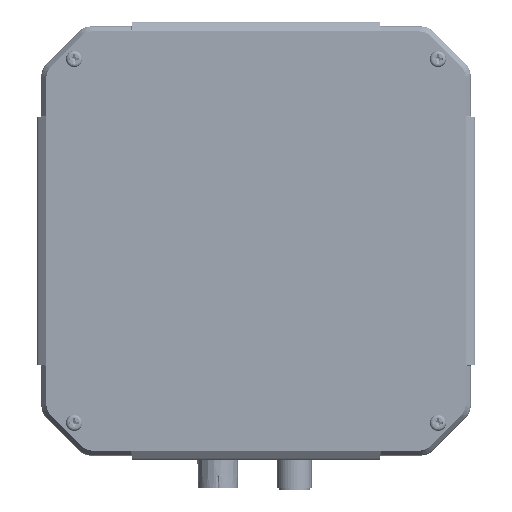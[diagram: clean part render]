
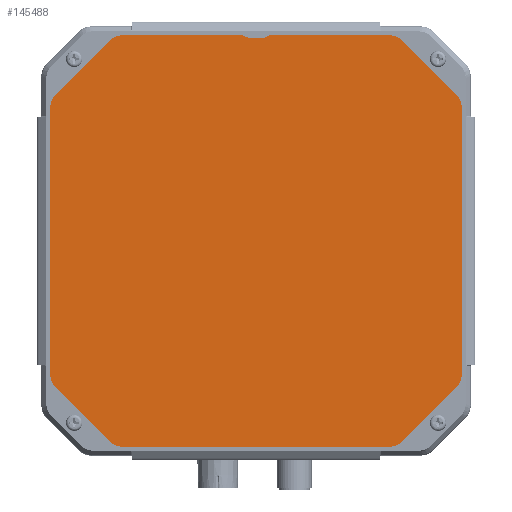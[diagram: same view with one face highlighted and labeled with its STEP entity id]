
A CAD part, front view. The second image highlights one B-rep face of the part: STEP entity #145488.
In plain terms, the highlighted planar face has unit normal (0, -1, 0).
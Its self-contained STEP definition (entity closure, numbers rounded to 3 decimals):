
#50403=DIRECTION('',(1.,0.,0.));
#50404=VECTOR('',#50403,41.569);
#50405=CARTESIAN_POINT('',(4.571,-97.8,82.45));
#50406=LINE('',#50405,#50404);
#50411=DIRECTION('',(-0.903,0.,-0.429));
#50412=VECTOR('',#50411,1.763);
#50413=CARTESIAN_POINT('',(4.142,-97.8,82.353));
#50414=LINE('',#50413,#50412);
#50415=CARTESIAN_POINT('',(4.571,-97.8,81.45));
#50416=DIRECTION('',(0.,-1.,0.));
#50417=DIRECTION('',(0.,0.,1.));
#50418=AXIS2_PLACEMENT_3D('',#50415,#50416,#50417);
#50420=CARTESIAN_POINT('',(46.141,-97.8,78.049));
#50421=DIRECTION('',(0.,-1.,0.));
#50422=DIRECTION('',(0.707,0.,0.707));
#50423=AXIS2_PLACEMENT_3D('',#50420,#50421,#50422);
#50425=DIRECTION('',(-0.707,0.,0.707));
#50426=VECTOR('',#50425,27.591);
#50427=CARTESIAN_POINT('',(68.762,-97.8,61.65));
#50428=LINE('',#50427,#50426);
#50429=CARTESIAN_POINT('',(65.651,-97.8,58.538));
#50430=DIRECTION('',(0.,-1.,0.));
#50431=DIRECTION('',(1.,0.,0.));
#50432=AXIS2_PLACEMENT_3D('',#50429,#50430,#50431);
#50434=CARTESIAN_POINT('',(65.649,-97.8,-33.741));
#50435=DIRECTION('',(0.,-1.,0.));
#50436=DIRECTION('',(0.707,0.,-0.707));
#50437=AXIS2_PLACEMENT_3D('',#50434,#50435,#50436);
#50439=DIRECTION('',(0.707,0.,0.707));
#50440=VECTOR('',#50439,27.591);
#50441=CARTESIAN_POINT('',(49.25,-97.8,-56.362));
#50442=LINE('',#50441,#50440);
#50443=CARTESIAN_POINT('',(46.138,-97.8,-53.251));
#50444=DIRECTION('',(0.,-1.,0.));
#50445=DIRECTION('',(0.,0.,-1.));
#50446=AXIS2_PLACEMENT_3D('',#50443,#50444,#50445);
#50448=CARTESIAN_POINT('',(-46.141,-97.8,-53.249));
#50449=DIRECTION('',(0.,-1.,0.));
#50450=DIRECTION('',(-0.707,0.,-0.707));
#50451=AXIS2_PLACEMENT_3D('',#50448,#50449,#50450);
#50453=DIRECTION('',(0.707,0.,-0.707));
#50454=VECTOR('',#50453,27.591);
#50455=CARTESIAN_POINT('',(-68.762,-97.8,-36.85));
#50456=LINE('',#50455,#50454);
#50457=CARTESIAN_POINT('',(-65.651,-97.8,-33.739));
#50458=DIRECTION('',(0.,-1.,0.));
#50459=DIRECTION('',(-1.,0.,0.));
#50460=AXIS2_PLACEMENT_3D('',#50457,#50458,#50459);
#50462=CARTESIAN_POINT('',(-65.649,-97.8,58.541));
#50463=DIRECTION('',(0.,-1.,0.));
#50464=DIRECTION('',(-0.707,0.,0.707));
#50465=AXIS2_PLACEMENT_3D('',#50462,#50463,#50464);
#50467=DIRECTION('',(-0.707,0.,-0.707));
#50468=VECTOR('',#50467,27.591);
#50469=CARTESIAN_POINT('',(-49.25,-97.8,81.162));
#50470=LINE('',#50469,#50468);
#50471=CARTESIAN_POINT('',(-46.139,-97.8,78.051));
#50472=DIRECTION('',(0.,-1.,0.));
#50473=DIRECTION('',(0.,0.,1.));
#50474=AXIS2_PLACEMENT_3D('',#50471,#50472,#50473);
#50476=CARTESIAN_POINT('',(-4.569,-97.8,81.45));
#50477=DIRECTION('',(0.,-1.,0.));
#50478=DIRECTION('',(0.429,0.,0.903));
#50479=AXIS2_PLACEMENT_3D('',#50476,#50477,#50478);
#50481=DIRECTION('',(-0.903,0.,0.429));
#50482=VECTOR('',#50481,1.763);
#50483=CARTESIAN_POINT('',(-2.548,-97.8,81.596));
#50484=LINE('',#50483,#50482);
#50485=CARTESIAN_POINT('',(-2.119,-97.8,82.5));
#50486=DIRECTION('',(0.,1.,0.));
#50487=DIRECTION('',(0.,0.,-1.));
#50488=AXIS2_PLACEMENT_3D('',#50485,#50486,#50487);
#50490=CARTESIAN_POINT('',(2.121,-97.8,82.5));
#50491=DIRECTION('',(0.,1.,0.));
#50492=DIRECTION('',(0.429,0.,-0.903));
#50493=AXIS2_PLACEMENT_3D('',#50490,#50491,#50492);
#50511=DIRECTION('',(1.,0.,0.));
#50512=VECTOR('',#50511,4.24);
#50513=CARTESIAN_POINT('',(-2.119,-97.8,81.5));
#50514=LINE('',#50513,#50512);
#50535=DIRECTION('',(1.,0.,0.));
#50536=VECTOR('',#50535,41.569);
#50537=CARTESIAN_POINT('',(-46.139,-97.8,82.451));
#50538=LINE('',#50537,#50536);
#50559=DIRECTION('',(0.,0.,1.));
#50560=VECTOR('',#50559,92.28);
#50561=CARTESIAN_POINT('',(-70.051,-97.8,-33.739));
#50562=LINE('',#50561,#50560);
#50583=DIRECTION('',(-1.,0.,0.));
#50584=VECTOR('',#50583,92.28);
#50585=CARTESIAN_POINT('',(46.138,-97.8,-57.651));
#50586=LINE('',#50585,#50584);
#50603=DIRECTION('',(0.,0.,-1.));
#50604=VECTOR('',#50603,92.28);
#50605=CARTESIAN_POINT('',(70.051,-97.8,58.538));
#50606=LINE('',#50605,#50604);
#64912=CARTESIAN_POINT('',(4.571,-97.8,82.45));
#64913=CARTESIAN_POINT('',(4.142,-97.8,82.353));
#64914=VERTEX_POINT('',#64912);
#64915=VERTEX_POINT('',#64913);
#64916=CARTESIAN_POINT('',(46.141,-97.8,82.449));
#64917=VERTEX_POINT('',#64916);
#64918=CARTESIAN_POINT('',(49.252,-97.8,81.16));
#64919=VERTEX_POINT('',#64918);
#64920=CARTESIAN_POINT('',(68.762,-97.8,61.65));
#64921=VERTEX_POINT('',#64920);
#64922=CARTESIAN_POINT('',(70.051,-97.8,58.538));
#64923=VERTEX_POINT('',#64922);
#64924=CARTESIAN_POINT('',(70.049,-97.8,-33.741));
#64925=VERTEX_POINT('',#64924);
#64926=CARTESIAN_POINT('',(68.76,-97.8,-36.853));
#64927=VERTEX_POINT('',#64926);
#64928=CARTESIAN_POINT('',(49.25,-97.8,-56.362));
#64929=VERTEX_POINT('',#64928);
#64930=CARTESIAN_POINT('',(46.138,-97.8,-57.651));
#64931=VERTEX_POINT('',#64930);
#64932=CARTESIAN_POINT('',(-46.141,-97.8,-57.649));
#64933=VERTEX_POINT('',#64932);
#64934=CARTESIAN_POINT('',(-49.253,-97.8,-56.361));
#64935=VERTEX_POINT('',#64934);
#64936=CARTESIAN_POINT('',(-68.762,-97.8,-36.85));
#64937=VERTEX_POINT('',#64936);
#64938=CARTESIAN_POINT('',(-70.051,-97.8,-33.739));
#64939=VERTEX_POINT('',#64938);
#64940=CARTESIAN_POINT('',(-70.049,-97.8,58.541));
#64941=VERTEX_POINT('',#64940);
#64942=CARTESIAN_POINT('',(-68.761,-97.8,61.652));
#64943=VERTEX_POINT('',#64942);
#64944=CARTESIAN_POINT('',(-49.25,-97.8,81.162));
#64945=VERTEX_POINT('',#64944);
#64946=CARTESIAN_POINT('',(-46.139,-97.8,82.451));
#64947=VERTEX_POINT('',#64946);
#64948=CARTESIAN_POINT('',(-4.569,-97.8,82.45));
#64949=VERTEX_POINT('',#64948);
#64950=CARTESIAN_POINT('',(-4.14,-97.8,82.353));
#64951=VERTEX_POINT('',#64950);
#64952=CARTESIAN_POINT('',(-2.548,-97.8,81.596));
#64953=VERTEX_POINT('',#64952);
#64954=CARTESIAN_POINT('',(-2.119,-97.8,81.5));
#64955=VERTEX_POINT('',#64954);
#64956=CARTESIAN_POINT('',(2.121,-97.8,81.5));
#64957=VERTEX_POINT('',#64956);
#64958=CARTESIAN_POINT('',(2.55,-97.8,81.596));
#64959=VERTEX_POINT('',#64958);
#145434=CARTESIAN_POINT('',(0.,-97.8,12.4));
#145435=DIRECTION('',(0.,-1.,0.));
#145436=DIRECTION('',(1.,0.,0.));
#145437=AXIS2_PLACEMENT_3D('',#145434,#145435,#145436);
#145438=PLANE('',#145437);
#145440=ORIENTED_EDGE('',*,*,#145439,.F.);
#145442=ORIENTED_EDGE('',*,*,#145441,.F.);
#145443=ORIENTED_EDGE('',*,*,#145424,.T.);
#145445=ORIENTED_EDGE('',*,*,#145444,.F.);
#145447=ORIENTED_EDGE('',*,*,#145446,.F.);
#145449=ORIENTED_EDGE('',*,*,#145448,.F.);
#145451=ORIENTED_EDGE('',*,*,#145450,.T.);
#145453=ORIENTED_EDGE('',*,*,#145452,.F.);
#145455=ORIENTED_EDGE('',*,*,#145454,.F.);
#145457=ORIENTED_EDGE('',*,*,#145456,.F.);
#145459=ORIENTED_EDGE('',*,*,#145458,.T.);
#145461=ORIENTED_EDGE('',*,*,#145460,.F.);
#145463=ORIENTED_EDGE('',*,*,#145462,.F.);
#145465=ORIENTED_EDGE('',*,*,#145464,.F.);
#145467=ORIENTED_EDGE('',*,*,#145466,.T.);
#145469=ORIENTED_EDGE('',*,*,#145468,.F.);
#145471=ORIENTED_EDGE('',*,*,#145470,.F.);
#145473=ORIENTED_EDGE('',*,*,#145472,.F.);
#145475=ORIENTED_EDGE('',*,*,#145474,.T.);
#145477=ORIENTED_EDGE('',*,*,#145476,.F.);
#145479=ORIENTED_EDGE('',*,*,#145478,.F.);
#145481=ORIENTED_EDGE('',*,*,#145480,.F.);
#145483=ORIENTED_EDGE('',*,*,#145482,.T.);
#145485=ORIENTED_EDGE('',*,*,#145484,.F.);
#145486=EDGE_LOOP('',(#145440,#145442,#145443,#145445,#145447,#145449,#145451,
#145453,#145455,#145457,#145459,#145461,#145463,#145465,#145467,#145469,#145471,
#145473,#145475,#145477,#145479,#145481,#145483,#145485));
#145487=FACE_OUTER_BOUND('',#145486,.F.);
#50419=CIRCLE('',#50418,1.);
#50424=CIRCLE('',#50423,4.4);
#50433=CIRCLE('',#50432,4.4);
#50438=CIRCLE('',#50437,4.4);
#50447=CIRCLE('',#50446,4.4);
#50452=CIRCLE('',#50451,4.4);
#50461=CIRCLE('',#50460,4.4);
#50466=CIRCLE('',#50465,4.4);
#50475=CIRCLE('',#50474,4.4);
#50480=CIRCLE('',#50479,1.);
#50489=CIRCLE('',#50488,1.);
#50494=CIRCLE('',#50493,1.);
#145424=EDGE_CURVE('',#64914,#64917,#50406,.T.);
#145439=EDGE_CURVE('',#64915,#64959,#50414,.T.);
#145441=EDGE_CURVE('',#64914,#64915,#50419,.T.);
#145444=EDGE_CURVE('',#64919,#64917,#50424,.T.);
#145446=EDGE_CURVE('',#64921,#64919,#50428,.T.);
#145448=EDGE_CURVE('',#64923,#64921,#50433,.T.);
#145450=EDGE_CURVE('',#64923,#64925,#50606,.T.);
#145452=EDGE_CURVE('',#64927,#64925,#50438,.T.);
#145454=EDGE_CURVE('',#64929,#64927,#50442,.T.);
#145456=EDGE_CURVE('',#64931,#64929,#50447,.T.);
#145458=EDGE_CURVE('',#64931,#64933,#50586,.T.);
#145460=EDGE_CURVE('',#64935,#64933,#50452,.T.);
#145462=EDGE_CURVE('',#64937,#64935,#50456,.T.);
#145464=EDGE_CURVE('',#64939,#64937,#50461,.T.);
#145466=EDGE_CURVE('',#64939,#64941,#50562,.T.);
#145468=EDGE_CURVE('',#64943,#64941,#50466,.T.);
#145470=EDGE_CURVE('',#64945,#64943,#50470,.T.);
#145472=EDGE_CURVE('',#64947,#64945,#50475,.T.);
#145474=EDGE_CURVE('',#64947,#64949,#50538,.T.);
#145476=EDGE_CURVE('',#64951,#64949,#50480,.T.);
#145478=EDGE_CURVE('',#64953,#64951,#50484,.T.);
#145480=EDGE_CURVE('',#64955,#64953,#50489,.T.);
#145482=EDGE_CURVE('',#64955,#64957,#50514,.T.);
#145484=EDGE_CURVE('',#64959,#64957,#50494,.T.);
#145488=ADVANCED_FACE('',(#145487),#145438,.T.);
